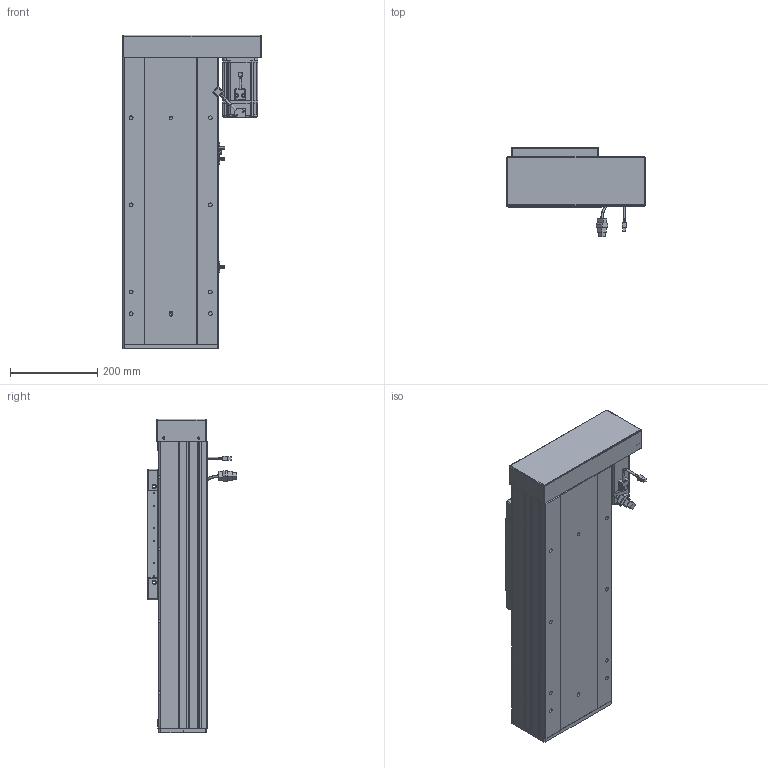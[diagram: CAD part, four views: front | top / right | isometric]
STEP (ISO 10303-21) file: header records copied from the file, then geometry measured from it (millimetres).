
FILE_DESCRIPTION (( 'STEP AP203' ), '1' );
FILE_NAME ('RY220F-L2525-300-RK.SLDASM_250.step', '2022-07-04T01:34:45', ( '' ), ( '' ), 'SwSTEP 2.0', 'SolidWorks 2016', '' );
FILE_SCHEMA (( 'CONFIG_CONTROL_DESIGN' ));
Length unit declared in the file: millimetre
Products named in the file (15): 侐源滅袉蝶; RY220F-詩湍揤踡輸; RY220F臏賑釱25-32佪裝; 覜茼ん672; RY220F綴裔啣; RY220F-672覜茼んえ; RY220左右折电机安装板; RY220F-L2525-300-RK.SLDASM_250; RY220F-滅鳥奻裔; RY220F蛌殏菁釱-300_250; 滅袉蝶18-24; RY220F-蛌殏奻裔啣-300_250; 怢湛750W_ECMA-CX0807ES; RY220F-祥凄詩湍-蛌殏-300_250; RY220酘衵殏萇儂欶
Assembly tree (21 placements, depth 2):
  RY220F-L2525-300-RK.SLDASM_250
    RY220F蛌殏菁釱-300_250
    RY220F-蛌殏奻裔啣-300_250  x2
    怢湛750W_ECMA-CX0807ES
    RY220F臏賑釱25-32佪裝
    RY220F-滅鳥奻裔
    滅袉蝶18-24  x3
    RY220F綴裔啣
    RY220F-祥凄詩湍-蛌殏-300_250
    RY220F-詩湍揤踡輸  x2
    覜茼ん672  x3
    RY220F-672覜茼んえ
    RY220左右折电机安装板
    RY220酘衵殏萇儂欶
    侐源滅袉蝶  x2
Bounding box: 317.5 x 205.27 x 721 mm (x, y, z)
Volume: 7695588.5 mm3; surface area: 2006359 mm2
Topology: 22 solids, 22 shells, 2110 faces, 5764 edges, 3638 vertices
Faces by surface type: cylinder 932, plane 888, cone 223, bspline 41, sphere 16, torus 10
Entity records: 64568 total; most frequent: CARTESIAN_POINT 17986, ORIENTED_EDGE 9486, DIRECTION 9054, EDGE_CURVE 4743, AXIS2_PLACEMENT_3D 3183, VERTEX_POINT 3080, LINE 2688, VECTOR 2688
